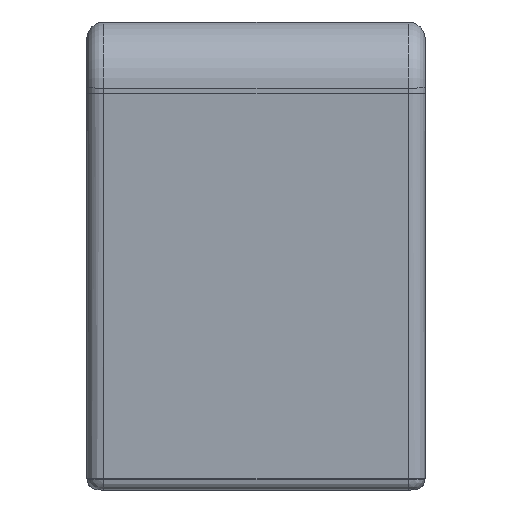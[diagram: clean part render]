
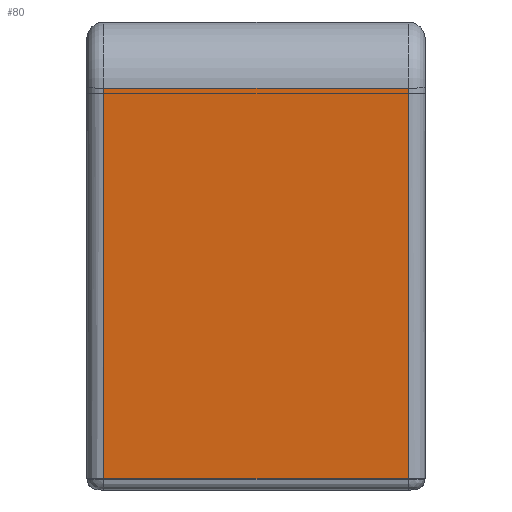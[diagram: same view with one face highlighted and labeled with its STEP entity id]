
A CAD part, left-side view. The second image highlights one B-rep face of the part: STEP entity #80.
In plain terms, the highlighted planar face has unit normal (-0.998, 0, -0.067).
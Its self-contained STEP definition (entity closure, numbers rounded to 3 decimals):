
#80 = ADVANCED_FACE ( 'NONE', ( #2026 ), #2674, .T. ) ;
#134 = EDGE_LOOP ( 'NONE', ( #1511, #1510, #1509, #1508 ) ) ;
#276 = AXIS2_PLACEMENT_3D ( 'NONE', #2671, #2664, #2662 ) ;
#610 = EDGE_CURVE ( 'NONE', #5048, #4964, #2477, .T. ) ;
#611 = EDGE_CURVE ( 'NONE', #4964, #5040, #2479, .T. ) ;
#612 = EDGE_CURVE ( 'NONE', #5040, #5020, #2481, .T. ) ;
#613 = EDGE_CURVE ( 'NONE', #5048, #5020, #2483, .T. ) ;
#1122 = CARTESIAN_POINT ( 'NONE',  ( -490., 13.5, -7. ) ) ;
#1123 = DIRECTION ( 'NONE',  ( 0.067, 0., -0.998 ) ) ;
#1124 = CARTESIAN_POINT ( 'NONE',  ( -490.063, 15., -6.067 ) ) ;
#1125 = DIRECTION ( 'NONE',  ( 0., -1., 0. ) ) ;
#1126 = CARTESIAN_POINT ( 'NONE',  ( -492.388, -13.5, 28.632 ) ) ;
#1127 = DIRECTION ( 'NONE',  ( -0.067, 0., 0.998 ) ) ;
#1128 = CARTESIAN_POINT ( 'NONE',  ( -492.388, 15., 28.632 ) ) ;
#1129 = DIRECTION ( 'NONE',  ( 0., -1., 0. ) ) ;
#1180 = CARTESIAN_POINT ( 'NONE',  ( -490.063, 13.5, -6.067 ) ) ;
#1236 = CARTESIAN_POINT ( 'NONE',  ( -492.388, -13.5, 28.632 ) ) ;
#1256 = CARTESIAN_POINT ( 'NONE',  ( -490.063, -13.5, -6.067 ) ) ;
#1264 = CARTESIAN_POINT ( 'NONE',  ( -492.388, 13.5, 28.632 ) ) ;
#1508 = ORIENTED_EDGE ( 'NONE', *, *, #613, .F. ) ;
#1509 = ORIENTED_EDGE ( 'NONE', *, *, #612, .T. ) ;
#1510 = ORIENTED_EDGE ( 'NONE', *, *, #611, .T. ) ;
#1511 = ORIENTED_EDGE ( 'NONE', *, *, #610, .T. ) ;
#2026 = FACE_OUTER_BOUND ( 'NONE', #134, .T. ) ;
#2477 = LINE ( 'NONE', #1122, #2478 ) ;
#2478 = VECTOR ( 'NONE', #1123, 1000. ) ;
#2479 = LINE ( 'NONE', #1124, #2480 ) ;
#2480 = VECTOR ( 'NONE', #1125, 1000. ) ;
#2481 = LINE ( 'NONE', #1126, #2482 ) ;
#2482 = VECTOR ( 'NONE', #1127, 1000. ) ;
#2483 = LINE ( 'NONE', #1128, #2484 ) ;
#2484 = VECTOR ( 'NONE', #1129, 1000. ) ;
#2662 = DIRECTION ( 'NONE',  ( -0.067, 0., 0.998 ) ) ;
#2664 = DIRECTION ( 'NONE',  ( -0.998, 0., -0.067 ) ) ;
#2671 = CARTESIAN_POINT ( 'NONE',  ( -490., 15., -7. ) ) ;
#2674 = PLANE ( 'NONE',  #276 ) ;
#4964 = VERTEX_POINT ( 'NONE', #1180 ) ;
#5020 = VERTEX_POINT ( 'NONE', #1236 ) ;
#5040 = VERTEX_POINT ( 'NONE', #1256 ) ;
#5048 = VERTEX_POINT ( 'NONE', #1264 ) ;
